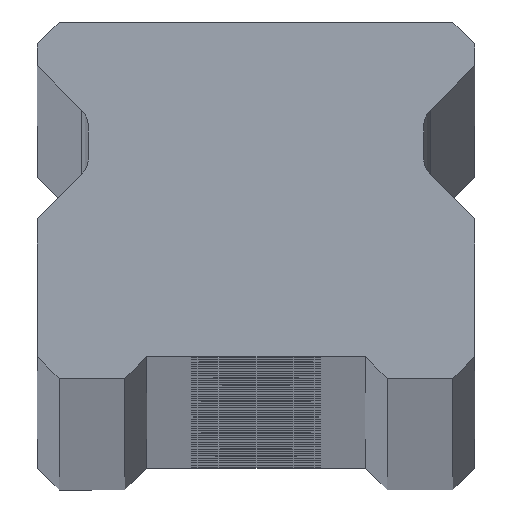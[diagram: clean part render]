
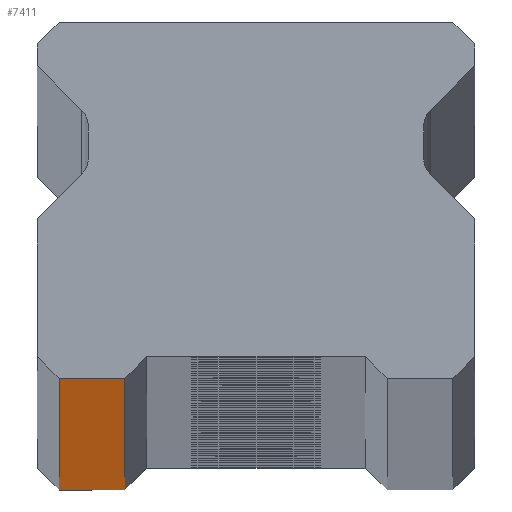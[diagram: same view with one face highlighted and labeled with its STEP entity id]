
A CAD part, top view. The second image highlights one B-rep face of the part: STEP entity #7411.
In plain terms, the highlighted planar face has unit normal (0, -1, 0).
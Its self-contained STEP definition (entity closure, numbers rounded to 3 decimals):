
#38 = EDGE_CURVE ( 'NONE', #6253, #5602, #6678, .T. ) ;
#199 = PLANE ( 'NONE',  #3630 ) ;
#1126 = VECTOR ( 'NONE', #4019, 1000. ) ;
#1218 = ORIENTED_EDGE ( 'NONE', *, *, #7369, .F. ) ;
#1871 = VERTEX_POINT ( 'NONE', #6235 ) ;
#2072 = VERTEX_POINT ( 'NONE', #6076 ) ;
#2140 = DIRECTION ( 'NONE',  ( 0., 0., 1. ) ) ;
#2249 = DIRECTION ( 'NONE',  ( 0., 1., 0. ) ) ;
#2276 = CARTESIAN_POINT ( 'NONE',  ( -9., 0., 1460. ) ) ;
#2343 = CARTESIAN_POINT ( 'NONE',  ( -6., 0., -1460. ) ) ;
#2549 = ORIENTED_EDGE ( 'NONE', *, *, #4690, .T. ) ;
#2740 = ORIENTED_EDGE ( 'NONE', *, *, #38, .T. ) ;
#3040 = LINE ( 'NONE', #7942, #1126 ) ;
#3541 = VECTOR ( 'NONE', #8097, 1000. ) ;
#3590 = DIRECTION ( 'NONE',  ( 0., 0., -1. ) ) ;
#3630 = AXIS2_PLACEMENT_3D ( 'NONE', #8214, #2249, #8181 ) ;
#4019 = DIRECTION ( 'NONE',  ( 1., 0., 0. ) ) ;
#4690 = EDGE_CURVE ( 'NONE', #2072, #1871, #5616, .T. ) ;
#5441 = VECTOR ( 'NONE', #2140, 1000. ) ;
#5518 = CARTESIAN_POINT ( 'NONE',  ( 10., 0., -1460. ) ) ;
#5602 = VERTEX_POINT ( 'NONE', #7339 ) ;
#5616 = LINE ( 'NONE', #2276, #7241 ) ;
#5870 = EDGE_LOOP ( 'NONE', ( #6373, #2740, #1218, #2549 ) ) ;
#6076 = CARTESIAN_POINT ( 'NONE',  ( -9., 0., 1460. ) ) ;
#6235 = CARTESIAN_POINT ( 'NONE',  ( -9., 0., -1460. ) ) ;
#6253 = VERTEX_POINT ( 'NONE', #2343 ) ;
#6258 = EDGE_CURVE ( 'NONE', #1871, #6253, #7036, .T. ) ;
#6373 = ORIENTED_EDGE ( 'NONE', *, *, #6258, .T. ) ;
#6678 = LINE ( 'NONE', #7697, #5441 ) ;
#6902 = FACE_OUTER_BOUND ( 'NONE', #5870, .T. ) ;
#7036 = LINE ( 'NONE', #5518, #3541 ) ;
#7241 = VECTOR ( 'NONE', #3590, 1000. ) ;
#7339 = CARTESIAN_POINT ( 'NONE',  ( -6., 0., 1460. ) ) ;
#7369 = EDGE_CURVE ( 'NONE', #2072, #5602, #3040, .T. ) ;
#7411 = ADVANCED_FACE ( 'NONE', ( #6902 ), #199, .F. ) ;
#7697 = CARTESIAN_POINT ( 'NONE',  ( -6., 0., -1460. ) ) ;
#7942 = CARTESIAN_POINT ( 'NONE',  ( 10., 0., 1460. ) ) ;
#8097 = DIRECTION ( 'NONE',  ( 1., 0., 0. ) ) ;
#8181 = DIRECTION ( 'NONE',  ( -1., 0., 0. ) ) ;
#8214 = CARTESIAN_POINT ( 'NONE',  ( 10., 0., 1460. ) ) ;
